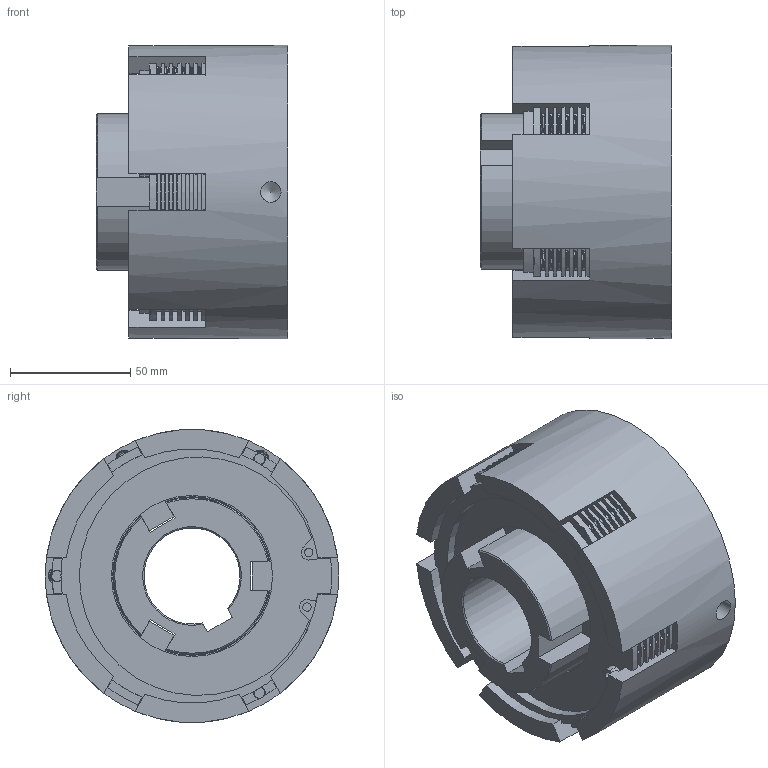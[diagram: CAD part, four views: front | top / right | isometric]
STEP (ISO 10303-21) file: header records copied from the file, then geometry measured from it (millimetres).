
FILE_DESCRIPTION(/* description */ (''),/* implementation_level */ '2;1');
FILE_NAME(/* name */ 'T:\INVENTOR\DISEGNI\03_Friz_Oleod_Pneum_Cil_Stat\03_05 FPL-BF\03_05_004_01 FPL04-BF\03_05_004_01 FPL04-BF@STEP.stp',/* time_stamp */ '2022-03-17T08:06:09+01:00',/* author */ ('w.sartori'),/* organization */ (''),/* preprocessor_version */ 'ST-DEVELOPER v18.1',/* originating_system */ 'Autodesk Inventor 2021',/* authorisation */ '');
FILE_SCHEMA (('AUTOMOTIVE_DESIGN { 1 0 10303 214 3 1 1 }'));
Length unit declared in the file: millimetre
Products named in the file (1): 03_05_004_01 FPL04-BF
Bounding box: 79.5 x 122 x 122 mm (x, y, z)
Volume: 564524.2 mm3; surface area: 256254.6 mm2
Topology: 13 solids, 15 shells, 634 faces, 1663 edges, 1080 vertices
Faces by surface type: plane 319, cylinder 236, cone 48, bspline 18, torus 13
Full cylindrical faces by diameter (mm): 2 x3, 2.75 x42, 3.5 x8, 4.134 x9, 5 x1, 8.566 x1, 55 x1, 65 x4, 66.806 x1, 67 x2, 70 x7, 72.806 x1, 75 x2, 80 x1, 85 x1, 95 x2, 96.806 x1, 100 x6, 102.806 x1, 105 x4, 105.8 x1, 122 x1
Entity records: 25083 total; most frequent: CARTESIAN_POINT 8302, DIRECTION 3487, ORIENTED_EDGE 3294, EDGE_CURVE 1647, AXIS2_PLACEMENT_3D 1294, VERTEX_POINT 1080, LINE 899, VECTOR 899
